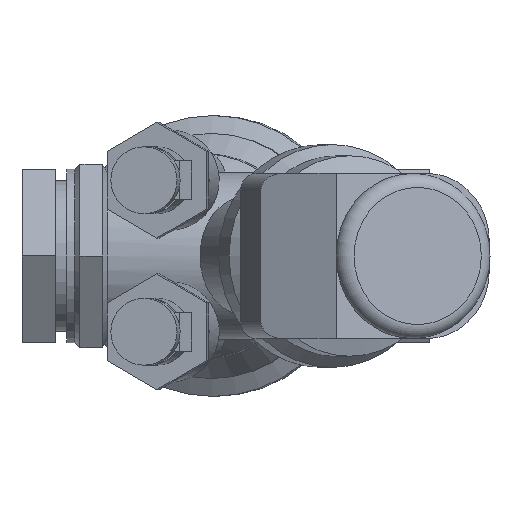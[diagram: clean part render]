
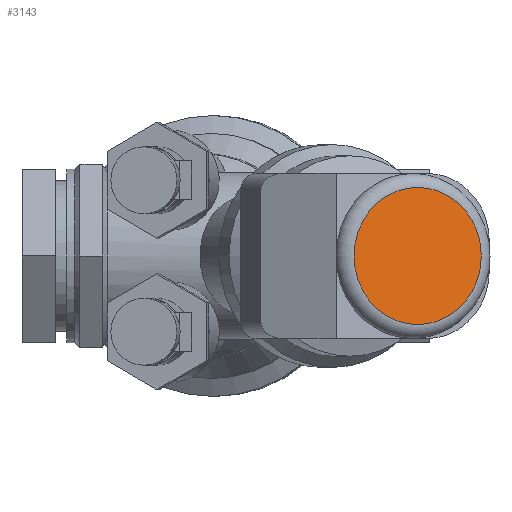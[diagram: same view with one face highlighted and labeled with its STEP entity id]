
A CAD part, front view. The second image highlights one B-rep face of the part: STEP entity #3143.
In plain terms, the highlighted planar face has unit normal (0.375, -0.927, 0).
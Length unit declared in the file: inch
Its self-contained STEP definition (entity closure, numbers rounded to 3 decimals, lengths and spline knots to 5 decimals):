
#152=CIRCLE('',#3482,0.61577);
#153=CIRCLE('',#3483,0.61577);
#336=FACE_OUTER_BOUND('',#518,.T.);
#518=EDGE_LOOP('',(#2176,#2177));
#1278=VERTEX_POINT('',#5208);
#1279=VERTEX_POINT('',#5209);
#1615=EDGE_CURVE('',#1278,#1279,#152,.T.);
#1616=EDGE_CURVE('',#1279,#1278,#153,.T.);
#2176=ORIENTED_EDGE('',*,*,#1615,.T.);
#2177=ORIENTED_EDGE('',*,*,#1616,.T.);
#2823=PLANE('',#3485);
#3143=ADVANCED_FACE('',(#336),#2823,.T.);
#3482=AXIS2_PLACEMENT_3D('',#5210,#4020,#4021);
#3483=AXIS2_PLACEMENT_3D('',#5211,#4022,#4023);
#3485=AXIS2_PLACEMENT_3D('',#5213,#4026,#4027);
#4020=DIRECTION('center_axis',(0.375,-0.927,0.));
#4021=DIRECTION('ref_axis',(0.927,0.375,0.));
#4022=DIRECTION('center_axis',(0.375,-0.927,0.));
#4023=DIRECTION('ref_axis',(0.927,0.375,0.));
#4026=DIRECTION('center_axis',(0.375,-0.927,0.));
#4027=DIRECTION('ref_axis',(0.,0.,-1.));
#5208=CARTESIAN_POINT('',(1.15031,-4.4909,0.));
#5209=CARTESIAN_POINT('',(1.72124,-4.26023,0.61577));
#5210=CARTESIAN_POINT('Origin',(1.72124,-4.26023,0.));
#5211=CARTESIAN_POINT('Origin',(1.72124,-4.26023,0.));
#5213=CARTESIAN_POINT('Origin',(1.72124,-4.26023,0.));
